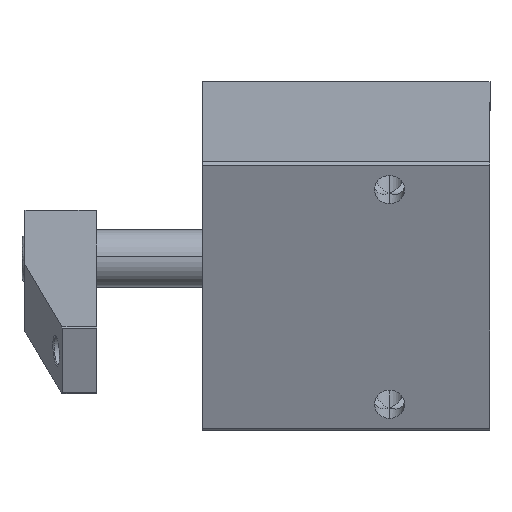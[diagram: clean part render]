
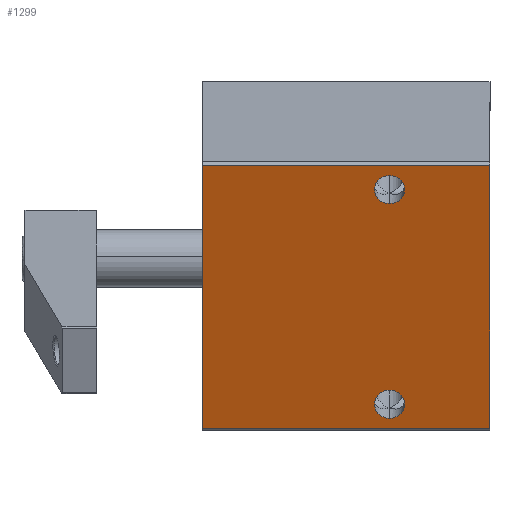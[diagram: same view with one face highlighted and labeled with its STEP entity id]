
A CAD part, left-side view. The second image highlights one B-rep face of the part: STEP entity #1299.
In plain terms, the highlighted planar face has unit normal (-0.934, 0, -0.356) as drawn and (1, 0, 0) by its records, which use the part's own axes.
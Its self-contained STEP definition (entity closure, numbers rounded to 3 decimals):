
#1227 = VERTEX_POINT ( 'NONE', #2625 ) ;
#1230 = EDGE_CURVE ( 'NONE', #7855, #1227, #2624, .T. ) ;
#1239 = VERTEX_POINT ( 'NONE', #2694 ) ;
#1251 = EDGE_CURVE ( 'NONE', #1227, #1239, #2680, .T. ) ;
#1267 = EDGE_CURVE ( 'NONE', #1239, #7856, #2667, .T. ) ;
#1278 = ORIENTED_EDGE ( 'NONE', *, *, #1230, .F. ) ;
#1279 = ORIENTED_EDGE ( 'NONE', *, *, #1251, .F. ) ;
#1289 = EDGE_LOOP ( 'NONE', ( #1279, #1278, #1302, #1298 ) ) ;
#1293 = EDGE_LOOP ( 'NONE', ( #1301, #6586 ) ) ;
#1294 = ORIENTED_EDGE ( 'NONE', *, *, #7847, .F. ) ;
#1297 = EDGE_LOOP ( 'NONE', ( #1300, #1294 ) ) ;
#1298 = ORIENTED_EDGE ( 'NONE', *, *, #1267, .F. ) ;
#1299 = ADVANCED_FACE ( 'NONE', ( #2665, #2626, #2662 ), #2675, .F. ) ;
#1300 = ORIENTED_EDGE ( 'NONE', *, *, #6624, .F. ) ;
#1301 = ORIENTED_EDGE ( 'NONE', *, *, #6660, .F. ) ;
#1302 = ORIENTED_EDGE ( 'NONE', *, *, #7854, .F. ) ;
#2624 = LINE ( 'NONE', #2693, #2692 ) ;
#2625 = CARTESIAN_POINT ( 'NONE',  ( 1244.576, 504.717, 100. ) ) ;
#2626 = FACE_BOUND ( 'NONE', #1297, .T. ) ;
#2662 = FACE_BOUND ( 'NONE', #1293, .T. ) ;
#2663 = DIRECTION ( 'NONE',  ( 0., -1., 0. ) ) ;
#2664 = VECTOR ( 'NONE', #2663, 1000. ) ;
#2665 = FACE_OUTER_BOUND ( 'NONE', #1289, .T. ) ;
#2666 = CARTESIAN_POINT ( 'NONE',  ( 1244.576, 406.717, 0. ) ) ;
#2667 = LINE ( 'NONE', #2666, #2664 ) ;
#2669 = CARTESIAN_POINT ( 'NONE',  ( 1244.576, 406.717, 100. ) ) ;
#2672 = DIRECTION ( 'NONE',  ( 0., 0., -1. ) ) ;
#2673 = VECTOR ( 'NONE', #2672, 1000. ) ;
#2674 = CARTESIAN_POINT ( 'NONE',  ( 1244.576, 504.717, 100. ) ) ;
#2675 = PLANE ( 'NONE',  #2715 ) ;
#2680 = LINE ( 'NONE', #2674, #2673 ) ;
#2691 = DIRECTION ( 'NONE',  ( 0., 1., 0. ) ) ;
#2692 = VECTOR ( 'NONE', #2691, 1000. ) ;
#2693 = CARTESIAN_POINT ( 'NONE',  ( 1244.576, 406.717, 100. ) ) ;
#2694 = CARTESIAN_POINT ( 'NONE',  ( 1244.576, 504.717, 0. ) ) ;
#2711 = DIRECTION ( 'NONE',  ( 0., -1., 0. ) ) ;
#2715 = AXIS2_PLACEMENT_3D ( 'NONE', #2669, #2719, #2711 ) ;
#2719 = DIRECTION ( 'NONE',  ( -1., 0., 0. ) ) ;
#6586 = ORIENTED_EDGE ( 'NONE', *, *, #7819, .F. ) ;
#6624 = EDGE_CURVE ( 'NONE', #6678, #6626, #13749, .T. ) ;
#6626 = VERTEX_POINT ( 'NONE', #13803 ) ;
#6640 = VERTEX_POINT ( 'NONE', #13797 ) ;
#6660 = EDGE_CURVE ( 'NONE', #6640, #6671, #13849, .T. ) ;
#6671 = VERTEX_POINT ( 'NONE', #13270 ) ;
#6678 = VERTEX_POINT ( 'NONE', #12854 ) ;
#7819 = EDGE_CURVE ( 'NONE', #6671, #6640, #16278, .T. ) ;
#7847 = EDGE_CURVE ( 'NONE', #6626, #6678, #16343, .T. ) ;
#7854 = EDGE_CURVE ( 'NONE', #7856, #7855, #16382, .T. ) ;
#7855 = VERTEX_POINT ( 'NONE', #16392 ) ;
#7856 = VERTEX_POINT ( 'NONE', #16384 ) ;
#12854 = CARTESIAN_POINT ( 'NONE',  ( 1244.576, 490.467, 35. ) ) ;
#13270 = CARTESIAN_POINT ( 'NONE',  ( 1244.576, 420.967, 35. ) ) ;
#13749 = CIRCLE ( 'NONE', #13795, 5.25 ) ;
#13792 = DIRECTION ( 'NONE',  ( 0., -1., 0. ) ) ;
#13793 = DIRECTION ( 'NONE',  ( 1., 0., 0. ) ) ;
#13794 = CARTESIAN_POINT ( 'NONE',  ( 1244.576, 495.717, 35. ) ) ;
#13795 = AXIS2_PLACEMENT_3D ( 'NONE', #13794, #13793, #13792 ) ;
#13797 = CARTESIAN_POINT ( 'NONE',  ( 1244.576, 410.467, 35. ) ) ;
#13803 = CARTESIAN_POINT ( 'NONE',  ( 1244.576, 500.967, 35. ) ) ;
#13848 = CARTESIAN_POINT ( 'NONE',  ( 1244.576, 415.717, 35. ) ) ;
#13849 = CIRCLE ( 'NONE', #13878, 5.25 ) ;
#13876 = DIRECTION ( 'NONE',  ( 0., -1., 0. ) ) ;
#13877 = DIRECTION ( 'NONE',  ( 1., 0., 0. ) ) ;
#13878 = AXIS2_PLACEMENT_3D ( 'NONE', #13848, #13877, #13876 ) ;
#16278 = CIRCLE ( 'NONE', #16333, 5.25 ) ;
#16288 = CARTESIAN_POINT ( 'NONE',  ( 1244.576, 415.717, 35. ) ) ;
#16313 = DIRECTION ( 'NONE',  ( 0., -1., 0. ) ) ;
#16329 = DIRECTION ( 'NONE',  ( 1., 0., 0. ) ) ;
#16333 = AXIS2_PLACEMENT_3D ( 'NONE', #16288, #16329, #16313 ) ;
#16343 = CIRCLE ( 'NONE', #16391, 5.25 ) ;
#16379 = DIRECTION ( 'NONE',  ( 0., 0., 1. ) ) ;
#16380 = VECTOR ( 'NONE', #16379, 1000. ) ;
#16381 = CARTESIAN_POINT ( 'NONE',  ( 1244.576, 406.717, 100. ) ) ;
#16382 = LINE ( 'NONE', #16381, #16380 ) ;
#16384 = CARTESIAN_POINT ( 'NONE',  ( 1244.576, 406.717, 0. ) ) ;
#16388 = DIRECTION ( 'NONE',  ( 0., -1., 0. ) ) ;
#16389 = DIRECTION ( 'NONE',  ( 1., 0., 0. ) ) ;
#16390 = CARTESIAN_POINT ( 'NONE',  ( 1244.576, 495.717, 35. ) ) ;
#16391 = AXIS2_PLACEMENT_3D ( 'NONE', #16390, #16389, #16388 ) ;
#16392 = CARTESIAN_POINT ( 'NONE',  ( 1244.576, 406.717, 100. ) ) ;
